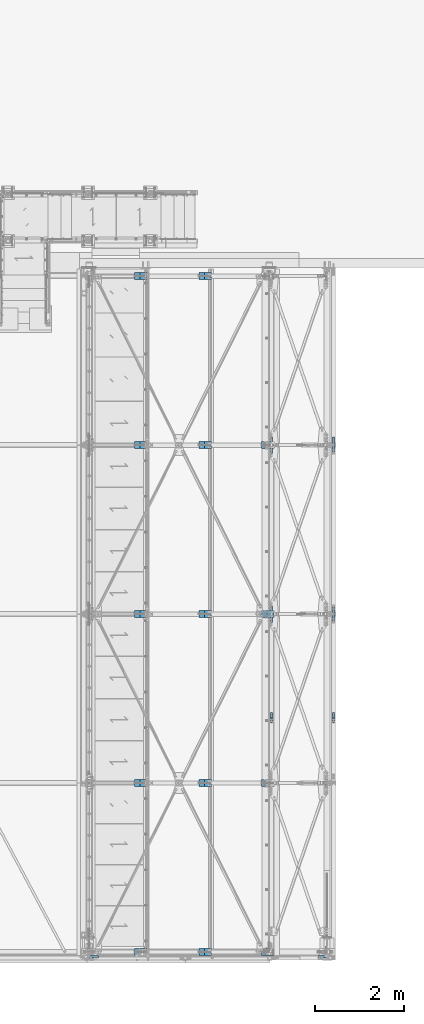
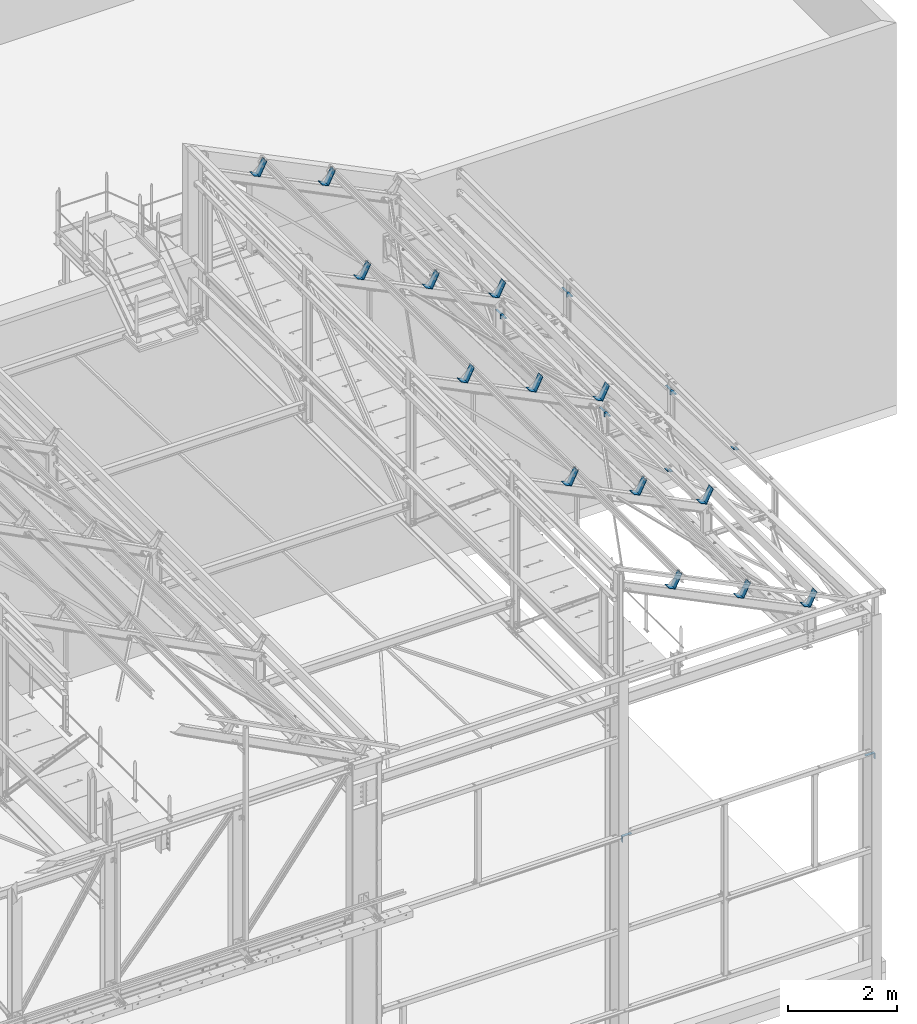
# One storey, part 361 of 362: 26 beams, 26 elements without a shape of their own.
"""IFC2X3 building model written with IfcOpenShell, lengths in millimetres."""

import ifcopenshell
import ifcopenshell.guid

model = None  # the IFC model being written
_history = None  # IfcOwnerHistory: only IFC2X3 demands one
_inside = {}  # id of a spatial element -> (the spatial element, [elements in it])
_under = {}  # id of a project, library or spatial element -> (it, [spatial elements below it])
_declared = {}  # id of a project -> (the project, [libraries it declares])
_typed = {}  # id of a type object -> (the type object, [elements of that type])
_made_of = {}  # id of a material, layer set ... -> (it, [elements and type objects made of it])


def new_model(schema):
    """Start an empty IFC model of exactly this schema.

    Asked for "IFC4X3", IfcOpenShell would pick the latest addendum, in which some entities
    have other attributes; the version numbers below select the first issue.
    IFC2X3 requires an IfcOwnerHistory on every rooted entity: one is made here for all.
    """
    global model, _history
    if schema == "IFC4X3":
        model = ifcopenshell.file(schema_version=(4, 3, 0, 0))
    else:
        model = ifcopenshell.file(schema=schema)
    _inside.clear()
    _under.clear()
    _declared.clear()
    _typed.clear()
    _made_of.clear()
    _history = None
    if model.schema == "IFC2X3":
        org = make("IfcOrganization", Name="unknown")
        user = make(
            "IfcPersonAndOrganization",
            ThePerson=make("IfcPerson", FamilyName="unknown"),
            TheOrganization=org,
        )
        app = make(
            "IfcApplication",
            ApplicationDeveloper=org,
            Version="unknown",
            ApplicationFullName="unknown",
            ApplicationIdentifier="unknown",
        )
        _history = make(
            "IfcOwnerHistory",
            OwningUser=user,
            OwningApplication=app,
            ChangeAction="ADDED",
            CreationDate=0,
        )
    return model


def make(cls, **values):
    """One entity of the class cls with the attributes given. An attribute that is None is left unset."""
    return model.create_entity(
        cls, **{name: value for name, value in values.items() if value is not None}
    )


def rooted(cls, **values):
    """An entity with a GlobalId (a new one), such as an element, a storey or a relation."""
    return make(cls, GlobalId=ifcopenshell.guid.new(), OwnerHistory=_history, **values)


def si_unit(unit_type, name, prefix=None):
    """IfcSIUnit, for example si_unit("LENGTHUNIT", "METRE", prefix="MILLI")."""
    return make("IfcSIUnit", UnitType=unit_type, Prefix=prefix, Name=name)


def assignment(units):
    """IfcUnitAssignment: the units of a project."""
    return None if units is None else make("IfcUnitAssignment", Units=units)


def point(xyz):
    """IfcCartesianPoint."""
    return None if xyz is None else make("IfcCartesianPoint", Coordinates=xyz)


def direction(xyz):
    """IfcDirection."""
    return None if xyz is None else make("IfcDirection", DirectionRatios=xyz)


def frame(location, z_axis=None, x_axis=None):
    """IfcAxis2Placement3D, a coordinate frame: its origin and axes. An axis left out is left unset."""
    return make(
        "IfcAxis2Placement3D",
        Location=point(location),
        Axis=direction(z_axis),
        RefDirection=direction(x_axis),
    )


def origin_with_axes():
    """The frame at (0, 0, 0) with the z axis (0, 0, 1) and the x axis (1, 0, 0) written out."""
    return frame((0.0, 0.0, 0.0), z_axis=(0.0, 0.0, 1.0), x_axis=(1.0, 0.0, 0.0))


def place(relative_to, where):
    """IfcLocalPlacement: puts the frame where relative to a parent placement (None: the world)."""
    return make(
        "IfcLocalPlacement", PlacementRelTo=relative_to, RelativePlacement=where
    )


def context(
    kind, dimensions, precision=None, world=None, true_north=None, identifier=None
):
    """IfcGeometricRepresentationContext, for example the 3D "Model" context."""
    return make(
        "IfcGeometricRepresentationContext",
        ContextIdentifier=identifier,
        ContextType=kind,
        CoordinateSpaceDimension=dimensions,
        Precision=precision,
        WorldCoordinateSystem=world,
        TrueNorth=true_north,
    )


def subcontext(parent, identifier, kind, view, scale=None):
    """IfcGeometricRepresentationSubContext, for example "Body" below "Model"."""
    return make(
        "IfcGeometricRepresentationSubContext",
        ContextIdentifier=identifier,
        ContextType=kind,
        ParentContext=parent,
        TargetScale=scale,
        TargetView=view,
    )


def project(units=None, contexts=None):
    """IfcProject with its units and contexts."""
    return rooted(
        "IfcProject",
        Name="project",
        RepresentationContexts=contexts,
        UnitsInContext=assignment(units),
    )


def spatial(cls, under=None, at=None, **own):
    """A site, building, storey or space (cls), placed at a placement, below another one or the project."""
    s = rooted(cls, ObjectPlacement=at, **own)
    if under is not None:
        _under.setdefault(under.id(), (under, []))[1].append(s)
    return s


def faces_of(points, faces, orient=None, outer=None):
    """IfcFace entities. A face is a list of loops; a loop is a list of indices into points, from 0.

    orient and outer hold one flag for each loop. By default every Orientation is true, the
    first loop of a face is its IfcFaceOuterBound and the others are IfcFaceBound.
    """
    made = []
    for i, loops in enumerate(faces):
        bounds = []
        for j, loop in enumerate(loops):
            is_outer = j == 0 if outer is None else outer[i][j]
            bounds.append(
                make(
                    "IfcFaceOuterBound" if is_outer else "IfcFaceBound",
                    Bound=make("IfcPolyLoop", Polygon=[points[k] for k in loop]),
                    Orientation=True if orient is None else orient[i][j],
                )
            )
        made.append(make("IfcFace", Bounds=bounds))
    return made


def faceted_brep(points, faces, orient=None, outer=None, voids=None):
    """IfcFacetedBrep: a solid bounded by flat faces; with voids (closed shells), ...WithVoids."""
    shared = [point(p) for p in points]
    hull = make("IfcClosedShell", CfsFaces=faces_of(shared, faces, orient, outer))
    if voids is None:
        return make("IfcFacetedBrep", Outer=hull)
    return make(
        "IfcFacetedBrepWithVoids",
        Outer=hull,
        Voids=[
            make(cls, CfsFaces=faces_of(shared, fs, o, b)) for cls, fs, o, b in voids
        ],
    )


def shape(context_of_items, identifier, shape_type, items):
    """IfcShapeRepresentation: the items that make up one representation, for example the "Body"."""
    return make(
        "IfcShapeRepresentation",
        ContextOfItems=context_of_items,
        RepresentationIdentifier=identifier,
        RepresentationType=shape_type,
        Items=items,
    )


def material(Name=None, Category=None):
    """IfcMaterial."""
    return make("IfcMaterial", Name=Name, Category=Category)


def made_of(thing, what):
    """Note that an element or type object is made of a material, layer set ...; save() writes the relation."""
    if what is not None:
        _made_of.setdefault(what.id(), (what, []))[1].append(thing)
    return thing


def type_object(cls, material=None, **own):
    """A type object (cls), such as IfcWallType, which elements share."""
    return made_of(rooted(cls, **own), material)


def element(
    cls,
    number,
    at=None,
    inside=None,
    cuts=None,
    type_object=None,
    material=None,
    context=None,
    identifier="Body",
    shape_type=None,
    held_by="IfcProductDefinitionShape",
    body=None,
    shapes=None,
    **own,
):
    """One element of the class cls, such as IfcWall. Its Tag is "e" and its number.

    at: its placement. inside: the storey or other place that contains it. cuts: it is an
    opening in that element (IfcRelVoidsElement). A single representation is given by context,
    identifier, shape_type and body (its items); several are given by shapes. held_by: the class
    of the entity that holds the representations. save() writes the other relations.
    """
    e = rooted(cls, Tag="e%d" % number, ObjectPlacement=at, **own)
    if body is not None:
        shapes = [shape(context, identifier, shape_type, body)]
    if shapes is not None:
        e.Representation = make(held_by, Representations=shapes)
    if inside is not None:
        _inside.setdefault(inside.id(), (inside, []))[1].append(e)
    if cuts is not None:
        rooted(
            "IfcRelVoidsElement", RelatingBuildingElement=cuts, RelatedOpeningElement=e
        )
    if type_object is not None:
        _typed.setdefault(type_object.id(), (type_object, []))[1].append(e)
    return made_of(e, material)


def aggregate(whole, parts):
    """IfcRelAggregates: a whole, such as a stair, and the parts it consists of."""
    return rooted("IfcRelAggregates", RelatingObject=whole, RelatedObjects=parts)


def save(model, path):
    """Write the relations noted so far, then the file.

    IfcRelAggregates (storeys below a building ...), IfcRelContainedInSpatialStructure (elements
    in a storey), IfcRelDefinesByType, IfcRelAssociatesMaterial and IfcRelDeclares: one each for
    every whole, place, type object, material and project.
    """
    for whole, parts in _under.values():
        aggregate(whole, parts)
    for where, things in _inside.values():
        rooted(
            "IfcRelContainedInSpatialStructure",
            RelatedElements=things,
            RelatingStructure=where,
        )
    for kind, things in _typed.values():
        rooted("IfcRelDefinesByType", RelatedObjects=things, RelatingType=kind)
    for what, things in _made_of.values():
        rooted("IfcRelAssociatesMaterial", RelatedObjects=things, RelatingMaterial=what)
    for by, libraries in _declared.values():
        rooted("IfcRelDeclares", RelatingContext=by, RelatedDefinitions=libraries)
    model.write(path)


model = new_model("IFC2X3")

# Units and contexts
model_context = context("Model", 3, precision=1e-05, world=origin_with_axes())
body_context = subcontext(model_context, "Body", "Model", "MODEL_VIEW")
ifc_project = project(units=[si_unit("LENGTHUNIT", "METRE", prefix="MILLI"), si_unit("AREAUNIT", "SQUARE_METRE"), si_unit("VOLUMEUNIT", "CUBIC_METRE"), si_unit("MASSUNIT", "GRAM", prefix="KILO"), si_unit("TIMEUNIT", "SECOND"), si_unit("PLANEANGLEUNIT", "RADIAN"), si_unit("SOLIDANGLEUNIT", "STERADIAN"), si_unit("THERMODYNAMICTEMPERATUREUNIT", "DEGREE_CELSIUS"), si_unit("LUMINOUSINTENSITYUNIT", "LUMEN")], contexts=[model_context])

# Site, building, storey
site_placement = place(None, origin_with_axes())
site = spatial("IfcSite", under=ifc_project, at=site_placement, Name="Undefined", CompositionType="ELEMENT")
building_placement = place(site_placement, origin_with_axes())
building = spatial("IfcBuilding", under=site, at=building_placement, Name="Undefined", CompositionType="ELEMENT")
storey_placement = place(building_placement, origin_with_axes())
storey = spatial("IfcBuildingStorey", under=building, at=storey_placement, Name="Undefined", CompositionType="ELEMENT", Elevation=0.0)

# Assembly, beam
assembly_1_placement = place(storey_placement, origin_with_axes())
assembly_1 = element("IfcElementAssembly", 1, at=assembly_1_placement, inside=storey, AssemblyPlace="NOTDEFINED", PredefinedType="NOTDEFINED")
ifc_material = material(Name="Undefined/S235-E24")
beam_type_1 = type_object("IfcBeamType", Name="PL60*10", PredefinedType="NOTDEFINED")
beam_1_placement = place(assembly_1_placement, frame((39620.000002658, -110.000005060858, 4800.00003731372), z_axis=(0.0, -1.0, 0.0), x_axis=(0.0, 0.0, 1.0)))
beam_1 = element("IfcBeam", 2, at=beam_1_placement, type_object=beam_type_1, material=ifc_material, Name="ATTACHE", ObjectType="PL60*10", context=body_context, shape_type="Brep", body=[
    faceted_brep([(0.0, -5.0, -30.0), (0.0, -5.0, 30.0), (0.0, 5.0, 30.0), (0.0, 5.0, -30.0), (130.0, 5.0, 30.0), (130.0, 5.0, -30.0), (140.0, -5.0, -30.0), (140.0, -5.0, 30.0), (130.0, 195.0, 30.0), (130.0, 195.0, -30.0), (140.0, 195.0, 30.0), (140.0, 195.0, -30.0)], [[[0, 1, 2, 3]], [[3, 2, 4, 5]], [[1, 0, 6, 7]], [[5, 4, 8, 9]], [[4, 2, 1, 7, 10, 8]], [[7, 6, 11, 10]], [[6, 0, 3, 5, 9, 11]], [[10, 11, 9, 8]]]),
])
aggregate(assembly_1, [beam_1])

assembly_2_placement = place(storey_placement, origin_with_axes())
assembly_2 = element("IfcElementAssembly", 3, at=assembly_2_placement, inside=storey, AssemblyPlace="NOTDEFINED", PredefinedType="NOTDEFINED")
beam_2_placement = place(assembly_2_placement, frame((34289.9999563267, -110.000005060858, 4800.00003001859), z_axis=(0.0, -1.0, 0.0), x_axis=(0.0, 0.0, 1.0)))
beam_2 = element("IfcBeam", 4, at=beam_2_placement, type_object=beam_type_1, material=ifc_material, Name="ATTACHE", ObjectType="PL60*10", context=body_context, shape_type="Brep", body=[
    faceted_brep([(0.0, -5.0, -30.0), (0.0, -5.0, 30.0), (0.0, 5.0, 30.0), (0.0, 5.0, -30.0), (140.0, 5.0, 30.0), (140.0, 5.0, -30.0), (130.0, -5.0, -30.0), (130.0, -5.0, 30.0), (140.000066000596, -194.999999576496, 30.0), (140.000066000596, -194.999999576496, -30.0), (130.000066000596, -195.000002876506, 30.0), (130.000066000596, -195.000002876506, -30.0)], [[[0, 1, 2, 3]], [[3, 2, 4, 5]], [[1, 0, 6, 7]], [[5, 4, 8, 9]], [[4, 2, 1, 7, 10, 8]], [[7, 6, 11, 10]], [[6, 0, 3, 5, 9, 11]], [[10, 11, 9, 8]]]),
])
aggregate(assembly_2, [beam_2])

assembly_3_placement = place(storey_placement, origin_with_axes())
assembly_3 = element("IfcElementAssembly", 5, at=assembly_3_placement, inside=storey, Name="PANNE SHED", AssemblyPlace="NOTDEFINED", PredefinedType="NOTDEFINED")
beam_type_2 = type_object("IfcBeamType", Name="PL10*160", PredefinedType="NOTDEFINED")
beam_3_placement = place(assembly_3_placement, frame((38429.8772433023, 7600.0000408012, 8917.78996067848), z_axis=(0.0, -1.0, 0.0), x_axis=(-0.441220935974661, 0.0, -0.89739850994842)))
beam_3 = element("IfcBeam", 6, at=beam_3_placement, type_object=beam_type_2, material=ifc_material, Name="PANNE SHED", ObjectType="PL10*160", context=body_context, shape_type="Brep", body=[
    faceted_brep([(5.07934601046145e-08, -5.00000000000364, -80.0), (5.081164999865e-08, -5.0, 80.0), (-5.08007360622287e-08, 5.0, 79.9999999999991), (-5.0815287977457e-08, 4.99999999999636, -80.0000000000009), (329.999999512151, 5.00000335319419, 79.99999999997), (329.999999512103, 5.00000335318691, -80.00000000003), (319.999998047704, -4.9999967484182, -80.0000000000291), (319.999998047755, -4.99999674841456, 79.9999999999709), (329.999977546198, -144.999983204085, 79.9999999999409), (329.999977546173, -144.999983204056, -80.0000000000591), (319.999977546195, -144.999981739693, 79.9999999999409), (319.999977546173, -144.999981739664, -80.0000000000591)], [[[0, 1, 2, 3]], [[3, 2, 4, 5]], [[1, 0, 6, 7]], [[5, 4, 8, 9]], [[4, 2, 1, 7, 10, 8]], [[7, 6, 11, 10]], [[6, 0, 3, 5, 9, 11]], [[10, 11, 9, 8]]]),
])
aggregate(assembly_3, [beam_3])

assembly_4_placement = place(storey_placement, origin_with_axes())
assembly_4 = element("IfcElementAssembly", 7, at=assembly_4_placement, inside=storey, Name="PANNE SHED", AssemblyPlace="NOTDEFINED", PredefinedType="NOTDEFINED")
beam_4_placement = place(assembly_4_placement, frame((38429.877263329, 4.08011983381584e-05, 8917.78995083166), z_axis=(0.0, -1.0, 0.0), x_axis=(-0.441220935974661, 0.0, -0.89739850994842)))
beam_4 = element("IfcBeam", 8, at=beam_4_placement, type_object=beam_type_2, material=ifc_material, Name="PANNE SHED", ObjectType="PL10*160", context=body_context, shape_type="Brep", body=[
    faceted_brep([(5.07934601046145e-08, -5.00000000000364, -80.0), (5.081164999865e-08, -5.0, 80.0), (-5.08007360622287e-08, 5.0, 79.9999999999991), (-5.0815287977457e-08, 4.99999999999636, -80.0000000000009), (329.999999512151, 5.00000335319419, 79.99999999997), (329.999999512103, 5.00000335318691, -80.00000000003), (319.999998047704, -4.9999967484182, -80.0000000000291), (319.999998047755, -4.99999674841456, 79.9999999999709), (329.999977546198, -144.999983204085, 79.9999999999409), (329.999977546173, -144.999983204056, -80.0000000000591), (319.999977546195, -144.999981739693, 79.9999999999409), (319.999977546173, -144.999981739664, -80.0000000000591)], [[[0, 1, 2, 3]], [[3, 2, 4, 5]], [[1, 0, 6, 7]], [[5, 4, 8, 9]], [[4, 2, 1, 7, 10, 8]], [[7, 6, 11, 10]], [[6, 0, 3, 5, 9, 11]], [[10, 11, 9, 8]]]),
])
aggregate(assembly_4, [beam_4])

assembly_5_placement = place(storey_placement, origin_with_axes())
assembly_5 = element("IfcElementAssembly", 9, at=assembly_5_placement, inside=storey, Name="PANNE SHED", AssemblyPlace="NOTDEFINED", PredefinedType="NOTDEFINED")
beam_5_placement = place(assembly_5_placement, frame((38429.877263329, 3800.0000408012, 8917.78995083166), z_axis=(0.0, -1.0, 0.0), x_axis=(-0.441220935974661, 0.0, -0.89739850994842)))
beam_5 = element("IfcBeam", 10, at=beam_5_placement, type_object=beam_type_2, material=ifc_material, Name="PANNE SHED", ObjectType="PL10*160", context=body_context, shape_type="Brep", body=[
    faceted_brep([(5.07934601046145e-08, -5.00000000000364, -80.0), (5.081164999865e-08, -5.0, 80.0), (-5.08007360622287e-08, 5.0, 79.9999999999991), (-5.0815287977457e-08, 4.99999999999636, -80.0000000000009), (329.999999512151, 5.00000335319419, 79.99999999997), (329.999999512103, 5.00000335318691, -80.00000000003), (319.999998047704, -4.9999967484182, -80.0000000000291), (319.999998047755, -4.99999674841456, 79.9999999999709), (329.999977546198, -144.999983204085, 79.9999999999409), (329.999977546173, -144.999983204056, -80.0000000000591), (319.999977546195, -144.999981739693, 79.9999999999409), (319.999977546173, -144.999981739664, -80.0000000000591)], [[[0, 1, 2, 3]], [[3, 2, 4, 5]], [[1, 0, 6, 7]], [[5, 4, 8, 9]], [[4, 2, 1, 7, 10, 8]], [[7, 6, 11, 10]], [[6, 0, 3, 5, 9, 11]], [[10, 11, 9, 8]]]),
])
aggregate(assembly_5, [beam_5])

assembly_6_placement = place(storey_placement, origin_with_axes())
assembly_6 = element("IfcElementAssembly", 11, at=assembly_6_placement, inside=storey, Name="PANNE SHED", AssemblyPlace="NOTDEFINED", PredefinedType="NOTDEFINED")
beam_6_placement = place(assembly_6_placement, frame((38429.8772633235, 11400.0000408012, 8917.78995083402), z_axis=(0.0, -1.0, 0.0), x_axis=(-0.441220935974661, 0.0, -0.89739850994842)))
beam_6 = element("IfcBeam", 12, at=beam_6_placement, type_object=beam_type_2, material=ifc_material, Name="PANNE SHED", ObjectType="PL10*160", context=body_context, shape_type="Brep", body=[
    faceted_brep([(5.07934601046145e-08, -5.00000000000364, -80.0), (5.081164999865e-08, -5.0, 80.0), (-5.08007360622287e-08, 5.0, 79.9999999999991), (-5.0815287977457e-08, 4.99999999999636, -80.0000000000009), (329.999999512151, 5.00000335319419, 79.99999999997), (329.999999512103, 5.00000335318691, -80.00000000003), (319.999998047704, -4.9999967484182, -80.0000000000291), (319.999998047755, -4.99999674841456, 79.9999999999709), (329.999977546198, -144.999983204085, 79.9999999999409), (329.999977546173, -144.999983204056, -80.0000000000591), (319.999977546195, -144.999981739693, 79.9999999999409), (319.999977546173, -144.999981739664, -80.0000000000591)], [[[0, 1, 2, 3]], [[3, 2, 4, 5]], [[1, 0, 6, 7]], [[5, 4, 8, 9]], [[4, 2, 1, 7, 10, 8]], [[7, 6, 11, 10]], [[6, 0, 3, 5, 9, 11]], [[10, 11, 9, 8]]]),
])
aggregate(assembly_6, [beam_6])

assembly_7_placement = place(storey_placement, origin_with_axes())
assembly_7 = element("IfcElementAssembly", 13, at=assembly_7_placement, inside=storey, Name="PANNE SHED", AssemblyPlace="NOTDEFINED", PredefinedType="NOTDEFINED")
beam_7_placement = place(assembly_7_placement, frame((35572.5934852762, 7600.0000408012, 10322.6211430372), z_axis=(0.0, -1.0, 0.0), x_axis=(-0.441220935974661, 0.0, -0.89739850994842)))
beam_7 = element("IfcBeam", 14, at=beam_7_placement, type_object=beam_type_2, material=ifc_material, Name="PANNE SHED", ObjectType="PL10*160", context=body_context, shape_type="Brep", body=[
    faceted_brep([(5.07934601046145e-08, -5.00000000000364, -80.0), (5.081164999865e-08, -5.0, 80.0), (-5.08007360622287e-08, 5.0, 79.9999999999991), (-5.0815287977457e-08, 4.99999999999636, -80.0000000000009), (329.999999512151, 5.00000335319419, 79.99999999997), (329.999999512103, 5.00000335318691, -80.00000000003), (319.999998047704, -4.9999967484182, -80.0000000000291), (319.999998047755, -4.99999674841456, 79.9999999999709), (329.999977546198, -144.999983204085, 79.9999999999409), (329.999977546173, -144.999983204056, -80.0000000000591), (319.999977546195, -144.999981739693, 79.9999999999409), (319.999977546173, -144.999981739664, -80.0000000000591)], [[[0, 1, 2, 3]], [[3, 2, 4, 5]], [[1, 0, 6, 7]], [[5, 4, 8, 9]], [[4, 2, 1, 7, 10, 8]], [[7, 6, 11, 10]], [[6, 0, 3, 5, 9, 11]], [[10, 11, 9, 8]]]),
])
aggregate(assembly_7, [beam_7])

assembly_8_placement = place(storey_placement, origin_with_axes())
assembly_8 = element("IfcElementAssembly", 15, at=assembly_8_placement, inside=storey, Name="PANNE SHED", AssemblyPlace="NOTDEFINED", PredefinedType="NOTDEFINED")
beam_8_placement = place(assembly_8_placement, frame((35572.5935053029, 4.08011983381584e-05, 10322.6211331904), z_axis=(0.0, -1.0, 0.0), x_axis=(-0.441220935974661, 0.0, -0.89739850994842)))
beam_8 = element("IfcBeam", 16, at=beam_8_placement, type_object=beam_type_2, material=ifc_material, Name="PANNE SHED", ObjectType="PL10*160", context=body_context, shape_type="Brep", body=[
    faceted_brep([(5.07934601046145e-08, -5.00000000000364, -80.0), (5.081164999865e-08, -5.0, 80.0), (-5.08007360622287e-08, 5.0, 79.9999999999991), (-5.0815287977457e-08, 4.99999999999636, -80.0000000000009), (329.999999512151, 5.00000335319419, 79.99999999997), (329.999999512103, 5.00000335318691, -80.00000000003), (319.999998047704, -4.9999967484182, -80.0000000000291), (319.999998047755, -4.99999674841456, 79.9999999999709), (329.999977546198, -144.999983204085, 79.9999999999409), (329.999977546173, -144.999983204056, -80.0000000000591), (319.999977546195, -144.999981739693, 79.9999999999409), (319.999977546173, -144.999981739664, -80.0000000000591)], [[[0, 1, 2, 3]], [[3, 2, 4, 5]], [[1, 0, 6, 7]], [[5, 4, 8, 9]], [[4, 2, 1, 7, 10, 8]], [[7, 6, 11, 10]], [[6, 0, 3, 5, 9, 11]], [[10, 11, 9, 8]]]),
])
aggregate(assembly_8, [beam_8])

assembly_9_placement = place(storey_placement, origin_with_axes())
assembly_9 = element("IfcElementAssembly", 17, at=assembly_9_placement, inside=storey, Name="PANNE SHED", AssemblyPlace="NOTDEFINED", PredefinedType="NOTDEFINED")
beam_9_placement = place(assembly_9_placement, frame((35572.5935053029, 3800.0000408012, 10322.6211331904), z_axis=(0.0, -1.0, 0.0), x_axis=(-0.441220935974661, 0.0, -0.89739850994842)))
beam_9 = element("IfcBeam", 18, at=beam_9_placement, type_object=beam_type_2, material=ifc_material, Name="PANNE SHED", ObjectType="PL10*160", context=body_context, shape_type="Brep", body=[
    faceted_brep([(5.07934601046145e-08, -5.00000000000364, -80.0), (5.081164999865e-08, -5.0, 80.0), (-5.08007360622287e-08, 5.0, 79.9999999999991), (-5.0815287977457e-08, 4.99999999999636, -80.0000000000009), (329.999999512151, 5.00000335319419, 79.99999999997), (329.999999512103, 5.00000335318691, -80.00000000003), (319.999998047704, -4.9999967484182, -80.0000000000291), (319.999998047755, -4.99999674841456, 79.9999999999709), (329.999977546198, -144.999983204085, 79.9999999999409), (329.999977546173, -144.999983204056, -80.0000000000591), (319.999977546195, -144.999981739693, 79.9999999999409), (319.999977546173, -144.999981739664, -80.0000000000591)], [[[0, 1, 2, 3]], [[3, 2, 4, 5]], [[1, 0, 6, 7]], [[5, 4, 8, 9]], [[4, 2, 1, 7, 10, 8]], [[7, 6, 11, 10]], [[6, 0, 3, 5, 9, 11]], [[10, 11, 9, 8]]]),
])
aggregate(assembly_9, [beam_9])

assembly_10_placement = place(storey_placement, origin_with_axes())
assembly_10 = element("IfcElementAssembly", 19, at=assembly_10_placement, inside=storey, Name="PANNE SHED", AssemblyPlace="NOTDEFINED", PredefinedType="NOTDEFINED")
beam_10_placement = place(assembly_10_placement, frame((35572.5935053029, 15200.0000408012, 10322.6211331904), z_axis=(0.0, -1.0, 0.0), x_axis=(-0.441220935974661, 0.0, -0.89739850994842)))
beam_10 = element("IfcBeam", 20, at=beam_10_placement, type_object=beam_type_2, material=ifc_material, Name="PANNE SHED", ObjectType="PL10*160", context=body_context, shape_type="Brep", body=[
    faceted_brep([(5.07934601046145e-08, -5.00000000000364, -80.0), (5.081164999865e-08, -5.0, 80.0), (-5.08007360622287e-08, 5.0, 79.9999999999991), (-5.0815287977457e-08, 4.99999999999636, -80.0000000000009), (329.999999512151, 5.00000335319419, 79.99999999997), (329.999999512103, 5.00000335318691, -80.00000000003), (319.999998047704, -4.9999967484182, -80.0000000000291), (319.999998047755, -4.99999674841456, 79.9999999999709), (329.999977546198, -144.999983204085, 79.9999999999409), (329.999977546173, -144.999983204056, -80.0000000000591), (319.999977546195, -144.999981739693, 79.9999999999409), (319.999977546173, -144.999981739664, -80.0000000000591)], [[[0, 1, 2, 3]], [[3, 2, 4, 5]], [[1, 0, 6, 7]], [[5, 4, 8, 9]], [[4, 2, 1, 7, 10, 8]], [[7, 6, 11, 10]], [[6, 0, 3, 5, 9, 11]], [[10, 11, 9, 8]]]),
])
aggregate(assembly_10, [beam_10])

assembly_11_placement = place(storey_placement, origin_with_axes())
assembly_11 = element("IfcElementAssembly", 21, at=assembly_11_placement, inside=storey, Name="PANNE SHED", AssemblyPlace="NOTDEFINED", PredefinedType="NOTDEFINED")
beam_11_placement = place(assembly_11_placement, frame((35572.5935052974, 11400.0000408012, 10322.6211331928), z_axis=(0.0, -1.0, 0.0), x_axis=(-0.441220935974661, 0.0, -0.89739850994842)))
beam_11 = element("IfcBeam", 22, at=beam_11_placement, type_object=beam_type_2, material=ifc_material, Name="PANNE SHED", ObjectType="PL10*160", context=body_context, shape_type="Brep", body=[
    faceted_brep([(5.07934601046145e-08, -5.00000000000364, -80.0), (5.081164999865e-08, -5.0, 80.0), (-5.08007360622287e-08, 5.0, 79.9999999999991), (-5.0815287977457e-08, 4.99999999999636, -80.0000000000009), (329.999999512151, 5.00000335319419, 79.99999999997), (329.999999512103, 5.00000335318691, -80.00000000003), (319.999998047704, -4.9999967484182, -80.0000000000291), (319.999998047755, -4.99999674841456, 79.9999999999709), (329.999977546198, -144.999983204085, 79.9999999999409), (329.999977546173, -144.999983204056, -80.0000000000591), (319.999977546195, -144.999981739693, 79.9999999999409), (319.999977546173, -144.999981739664, -80.0000000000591)], [[[0, 1, 2, 3]], [[3, 2, 4, 5]], [[1, 0, 6, 7]], [[5, 4, 8, 9]], [[4, 2, 1, 7, 10, 8]], [[7, 6, 11, 10]], [[6, 0, 3, 5, 9, 11]], [[10, 11, 9, 8]]]),
])
aggregate(assembly_11, [beam_11])

assembly_12_placement = place(storey_placement, origin_with_axes())
assembly_12 = element("IfcElementAssembly", 23, at=assembly_12_placement, inside=storey, Name="PANNE SHED", AssemblyPlace="NOTDEFINED", PredefinedType="NOTDEFINED")
beam_12_placement = place(assembly_12_placement, frame((37021.4268190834, 7600.0000408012, 9610.27808657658), z_axis=(0.0, -1.0, 0.0), x_axis=(-0.441220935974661, 0.0, -0.89739850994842)))
beam_12 = element("IfcBeam", 24, at=beam_12_placement, type_object=beam_type_2, material=ifc_material, Name="PANNE SHED", ObjectType="PL10*160", context=body_context, shape_type="Brep", body=[
    faceted_brep([(5.07934601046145e-08, -5.00000000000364, -80.0), (5.081164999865e-08, -5.0, 80.0), (-5.08007360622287e-08, 5.0, 79.9999999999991), (-5.0815287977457e-08, 4.99999999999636, -80.0000000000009), (329.999999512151, 5.00000335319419, 79.99999999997), (329.999999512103, 5.00000335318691, -80.00000000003), (319.999998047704, -4.9999967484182, -80.0000000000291), (319.999998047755, -4.99999674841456, 79.9999999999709), (329.999977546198, -144.999983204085, 79.9999999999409), (329.999977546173, -144.999983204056, -80.0000000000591), (319.999977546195, -144.999981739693, 79.9999999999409), (319.999977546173, -144.999981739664, -80.0000000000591)], [[[0, 1, 2, 3]], [[3, 2, 4, 5]], [[1, 0, 6, 7]], [[5, 4, 8, 9]], [[4, 2, 1, 7, 10, 8]], [[7, 6, 11, 10]], [[6, 0, 3, 5, 9, 11]], [[10, 11, 9, 8]]]),
])
aggregate(assembly_12, [beam_12])

assembly_13_placement = place(storey_placement, origin_with_axes())
assembly_13 = element("IfcElementAssembly", 25, at=assembly_13_placement, inside=storey, Name="PANNE SHED", AssemblyPlace="NOTDEFINED", PredefinedType="NOTDEFINED")
beam_13_placement = place(assembly_13_placement, frame((37021.4268391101, 4.08011983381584e-05, 9610.27807672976), z_axis=(0.0, -1.0, 0.0), x_axis=(-0.441220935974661, 0.0, -0.89739850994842)))
beam_13 = element("IfcBeam", 26, at=beam_13_placement, type_object=beam_type_2, material=ifc_material, Name="PANNE SHED", ObjectType="PL10*160", context=body_context, shape_type="Brep", body=[
    faceted_brep([(5.07934601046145e-08, -5.00000000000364, -80.0), (5.081164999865e-08, -5.0, 80.0), (-5.08007360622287e-08, 5.0, 79.9999999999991), (-5.0815287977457e-08, 4.99999999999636, -80.0000000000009), (329.999999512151, 5.00000335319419, 79.99999999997), (329.999999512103, 5.00000335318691, -80.00000000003), (319.999998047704, -4.9999967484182, -80.0000000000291), (319.999998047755, -4.99999674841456, 79.9999999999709), (329.999977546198, -144.999983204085, 79.9999999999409), (329.999977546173, -144.999983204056, -80.0000000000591), (319.999977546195, -144.999981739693, 79.9999999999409), (319.999977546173, -144.999981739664, -80.0000000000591)], [[[0, 1, 2, 3]], [[3, 2, 4, 5]], [[1, 0, 6, 7]], [[5, 4, 8, 9]], [[4, 2, 1, 7, 10, 8]], [[7, 6, 11, 10]], [[6, 0, 3, 5, 9, 11]], [[10, 11, 9, 8]]]),
])
aggregate(assembly_13, [beam_13])

assembly_14_placement = place(storey_placement, origin_with_axes())
assembly_14 = element("IfcElementAssembly", 27, at=assembly_14_placement, inside=storey, Name="PANNE SHED", AssemblyPlace="NOTDEFINED", PredefinedType="NOTDEFINED")
beam_14_placement = place(assembly_14_placement, frame((37021.4268391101, 3800.0000408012, 9610.27807672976), z_axis=(0.0, -1.0, 0.0), x_axis=(-0.441220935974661, 0.0, -0.89739850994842)))
beam_14 = element("IfcBeam", 28, at=beam_14_placement, type_object=beam_type_2, material=ifc_material, Name="PANNE SHED", ObjectType="PL10*160", context=body_context, shape_type="Brep", body=[
    faceted_brep([(5.07934601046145e-08, -5.00000000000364, -80.0), (5.081164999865e-08, -5.0, 80.0), (-5.08007360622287e-08, 5.0, 79.9999999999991), (-5.0815287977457e-08, 4.99999999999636, -80.0000000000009), (329.999999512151, 5.00000335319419, 79.99999999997), (329.999999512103, 5.00000335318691, -80.00000000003), (319.999998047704, -4.9999967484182, -80.0000000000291), (319.999998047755, -4.99999674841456, 79.9999999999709), (329.999977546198, -144.999983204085, 79.9999999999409), (329.999977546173, -144.999983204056, -80.0000000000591), (319.999977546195, -144.999981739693, 79.9999999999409), (319.999977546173, -144.999981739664, -80.0000000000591)], [[[0, 1, 2, 3]], [[3, 2, 4, 5]], [[1, 0, 6, 7]], [[5, 4, 8, 9]], [[4, 2, 1, 7, 10, 8]], [[7, 6, 11, 10]], [[6, 0, 3, 5, 9, 11]], [[10, 11, 9, 8]]]),
])
aggregate(assembly_14, [beam_14])

assembly_15_placement = place(storey_placement, origin_with_axes())
assembly_15 = element("IfcElementAssembly", 29, at=assembly_15_placement, inside=storey, Name="PANNE SHED", AssemblyPlace="NOTDEFINED", PredefinedType="NOTDEFINED")
beam_15_placement = place(assembly_15_placement, frame((37021.4268391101, 15200.0000408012, 9610.27807672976), z_axis=(0.0, -1.0, 0.0), x_axis=(-0.441220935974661, 0.0, -0.89739850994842)))
beam_15 = element("IfcBeam", 30, at=beam_15_placement, type_object=beam_type_2, material=ifc_material, Name="PANNE SHED", ObjectType="PL10*160", context=body_context, shape_type="Brep", body=[
    faceted_brep([(5.07934601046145e-08, -5.00000000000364, -80.0), (5.081164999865e-08, -5.0, 80.0), (-5.08007360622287e-08, 5.0, 79.9999999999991), (-5.0815287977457e-08, 4.99999999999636, -80.0000000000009), (329.999999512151, 5.00000335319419, 79.99999999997), (329.999999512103, 5.00000335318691, -80.00000000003), (319.999998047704, -4.9999967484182, -80.0000000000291), (319.999998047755, -4.99999674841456, 79.9999999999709), (329.999977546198, -144.999983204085, 79.9999999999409), (329.999977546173, -144.999983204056, -80.0000000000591), (319.999977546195, -144.999981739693, 79.9999999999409), (319.999977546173, -144.999981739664, -80.0000000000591)], [[[0, 1, 2, 3]], [[3, 2, 4, 5]], [[1, 0, 6, 7]], [[5, 4, 8, 9]], [[4, 2, 1, 7, 10, 8]], [[7, 6, 11, 10]], [[6, 0, 3, 5, 9, 11]], [[10, 11, 9, 8]]]),
])
aggregate(assembly_15, [beam_15])

assembly_16_placement = place(storey_placement, origin_with_axes())
assembly_16 = element("IfcElementAssembly", 31, at=assembly_16_placement, inside=storey, Name="PANNE SHED", AssemblyPlace="NOTDEFINED", PredefinedType="NOTDEFINED")
beam_16_placement = place(assembly_16_placement, frame((37021.4268391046, 11400.0000408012, 9610.27807673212), z_axis=(0.0, -1.0, 0.0), x_axis=(-0.441220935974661, 0.0, -0.89739850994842)))
beam_16 = element("IfcBeam", 32, at=beam_16_placement, type_object=beam_type_2, material=ifc_material, Name="PANNE SHED", ObjectType="PL10*160", context=body_context, shape_type="Brep", body=[
    faceted_brep([(5.07934601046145e-08, -5.00000000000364, -80.0), (5.081164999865e-08, -5.0, 80.0), (-5.08007360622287e-08, 5.0, 79.9999999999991), (-5.0815287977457e-08, 4.99999999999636, -80.0000000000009), (329.999999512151, 5.00000335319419, 79.99999999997), (329.999999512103, 5.00000335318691, -80.00000000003), (319.999998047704, -4.9999967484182, -80.0000000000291), (319.999998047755, -4.99999674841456, 79.9999999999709), (329.999977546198, -144.999983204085, 79.9999999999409), (329.999977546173, -144.999983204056, -80.0000000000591), (319.999977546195, -144.999981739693, 79.9999999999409), (319.999977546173, -144.999981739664, -80.0000000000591)], [[[0, 1, 2, 3]], [[3, 2, 4, 5]], [[1, 0, 6, 7]], [[5, 4, 8, 9]], [[4, 2, 1, 7, 10, 8]], [[7, 6, 11, 10]], [[6, 0, 3, 5, 9, 11]], [[10, 11, 9, 8]]]),
])
aggregate(assembly_16, [beam_16])

assembly_17_placement = place(storey_placement, origin_with_axes())
assembly_17 = element("IfcElementAssembly", 33, at=assembly_17_placement, inside=storey, AssemblyPlace="NOTDEFINED", PredefinedType="NOTDEFINED")
beam_type_3 = type_object("IfcBeamType", Name="PL6*50", PredefinedType="NOTDEFINED")
beam_17_placement = place(assembly_17_placement, frame((39775.0, 5155.38587692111, 8447.0), z_axis=(1.0, 0.0, 0.0), x_axis=(0.0, 1.0, 0.0)))
beam_17 = element("IfcBeam", 34, at=beam_17_placement, type_object=beam_type_3, material=ifc_material, Name="ATTACHE", ObjectType="PL6*50", context=body_context, shape_type="Brep", body=[
    faceted_brep([(-5.16229192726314e-09, -3.0, -25.0), (-5.16229192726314e-09, -3.0, 25.0), (5.16229192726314e-09, 3.0, 25.0), (5.16229192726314e-09, 3.0, -25.0), (109.999999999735, 2.99999999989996, 25.0), (109.999999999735, 2.99999999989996, -25.0), (103.99999999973, -3.00000000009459, -25.0), (103.99999999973, -3.00000000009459, 25.0), (109.999999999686, -51.1856165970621, 25.0), (109.999999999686, -51.1856165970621, -25.0), (103.999999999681, -57.0000000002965, -25.0), (103.999999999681, -57.0000000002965, 25.0), (234.124323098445, -55.086831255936, 25.0), (234.124323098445, -55.086831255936, -25.0), (233.935836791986, -61.0838699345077, 25.0), (233.935836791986, -61.0838699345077, -25.0)], [[[0, 1, 2, 3]], [[3, 2, 4, 5]], [[1, 0, 6, 7]], [[5, 4, 8, 9]], [[7, 6, 10, 11]], [[9, 8, 12, 13]], [[8, 4, 2, 1, 7, 11, 14, 12]], [[11, 10, 15, 14]], [[10, 6, 0, 3, 5, 9, 13, 15]], [[14, 15, 13, 12]]]),
])
aggregate(assembly_17, [beam_17])

assembly_18_placement = place(storey_placement, origin_with_axes())
assembly_18 = element("IfcElementAssembly", 35, at=assembly_18_placement, inside=storey, AssemblyPlace="NOTDEFINED", PredefinedType="NOTDEFINED")
beam_18_placement = place(assembly_18_placement, frame((39775.0, 11406.5000000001, 8082.99910469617), z_axis=(1.0, 0.0, 0.0), x_axis=(0.0, 0.0, 1.0)))
beam_18 = element("IfcBeam", 36, at=beam_18_placement, type_object=beam_type_3, material=ifc_material, Name="ATTACHE", ObjectType="PL6*50", context=body_context, shape_type="Brep", body=[
    faceted_brep([(-5.16229192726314e-09, -3.0, -25.0), (-5.16229192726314e-09, -3.0, 25.0), (5.16229192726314e-09, 3.0, 25.0), (5.16229192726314e-09, 3.0, -25.0), (109.889991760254, 2.99999999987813, 25.0), (109.889991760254, 2.99999999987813, -25.0), (103.698449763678, -3.0000000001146, -25.0), (103.698449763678, -3.0000000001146, 25.0), (104.18733215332, -178.440765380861, 25.0), (104.18733215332, -178.440765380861, -25.0), (98.1902934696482, -178.252279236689, 25.0), (98.1902934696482, -178.252279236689, -25.0)], [[[0, 1, 2, 3]], [[3, 2, 4, 5]], [[1, 0, 6, 7]], [[5, 4, 8, 9]], [[4, 2, 1, 7, 10, 8]], [[7, 6, 11, 10]], [[6, 0, 3, 5, 9, 11]], [[10, 11, 9, 8]]]),
])
aggregate(assembly_18, [beam_18])

assembly_19_placement = place(storey_placement, origin_with_axes())
assembly_19 = element("IfcElementAssembly", 37, at=assembly_19_placement, inside=storey, AssemblyPlace="NOTDEFINED", PredefinedType="NOTDEFINED")
beam_19_placement = place(assembly_19_placement, frame((39775.0000000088, 11214.9649832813, 8195.81325670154), z_axis=(1.0, 0.0, 0.0), x_axis=(0.0, 0.99950644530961, -0.0314144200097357)))
beam_19 = element("IfcBeam", 38, at=beam_19_placement, type_object=beam_type_3, material=ifc_material, Name="ATTACHE", ObjectType="PL6*50", context=body_context, shape_type="Brep", body=[
    faceted_brep([(-5.16229192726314e-09, -3.0, -25.0), (-5.16229192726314e-09, -3.0, 25.0), (5.16229192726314e-09, 3.0, 25.0), (5.16229192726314e-09, 3.0, -25.0), (181.530360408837, 2.99999968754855, 25.0), (181.530360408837, 2.99999968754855, -25.0), (175.715977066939, -3.00000030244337, -25.0), (175.715977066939, -3.00000030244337, 25.0), (184.989399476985, -107.055656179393, 25.0), (184.989399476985, -107.055656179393, -25.0), (178.992360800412, -107.244142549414, 25.0), (178.992360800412, -107.244142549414, -25.0)], [[[0, 1, 2, 3]], [[3, 2, 4, 5]], [[1, 0, 6, 7]], [[5, 4, 8, 9]], [[4, 2, 1, 7, 10, 8]], [[7, 6, 11, 10]], [[6, 0, 3, 5, 9, 11]], [[10, 11, 9, 8]]]),
])
aggregate(assembly_19, [beam_19])

assembly_20_placement = place(storey_placement, origin_with_axes())
assembly_20 = element("IfcElementAssembly", 39, at=assembly_20_placement, inside=storey, AssemblyPlace="NOTDEFINED", PredefinedType="NOTDEFINED")
beam_20_placement = place(assembly_20_placement, frame((39775.0, 7606.50000000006, 8202.43274464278), z_axis=(1.0, 0.0, 0.0), x_axis=(0.0, 0.0, 1.0)))
beam_20 = element("IfcBeam", 40, at=beam_20_placement, type_object=beam_type_3, material=ifc_material, Name="ATTACHE", ObjectType="PL6*50", context=body_context, shape_type="Brep", body=[
    faceted_brep([(-5.16229192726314e-09, -3.0, -25.0), (-5.16229192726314e-09, -3.0, 25.0), (5.16229192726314e-09, 3.0, 25.0), (5.16229192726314e-09, 3.0, -25.0), (109.889991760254, 2.99999999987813, 25.0), (109.889991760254, 2.99999999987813, -25.0), (103.698449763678, -3.0000000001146, -25.0), (103.698449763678, -3.0000000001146, 25.0), (104.18733215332, -178.440765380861, 25.0), (104.18733215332, -178.440765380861, -25.0), (98.1902934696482, -178.252279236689, 25.0), (98.1902934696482, -178.252279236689, -25.0)], [[[0, 1, 2, 3]], [[3, 2, 4, 5]], [[1, 0, 6, 7]], [[5, 4, 8, 9]], [[4, 2, 1, 7, 10, 8]], [[7, 6, 11, 10]], [[6, 0, 3, 5, 9, 11]], [[10, 11, 9, 8]]]),
])
aggregate(assembly_20, [beam_20])

assembly_21_placement = place(storey_placement, origin_with_axes())
assembly_21 = element("IfcElementAssembly", 41, at=assembly_21_placement, inside=storey, AssemblyPlace="NOTDEFINED", PredefinedType="NOTDEFINED")
beam_21_placement = place(assembly_21_placement, frame((39775.0000000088, 7414.96498328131, 8315.24689664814), z_axis=(1.0, 0.0, 0.0), x_axis=(0.0, 0.99950644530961, -0.0314144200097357)))
beam_21 = element("IfcBeam", 42, at=beam_21_placement, type_object=beam_type_3, material=ifc_material, Name="ATTACHE", ObjectType="PL6*50", context=body_context, shape_type="Brep", body=[
    faceted_brep([(-5.16229192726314e-09, -3.0, -25.0), (-5.16229192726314e-09, -3.0, 25.0), (5.16229192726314e-09, 3.0, 25.0), (5.16229192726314e-09, 3.0, -25.0), (181.530360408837, 2.99999968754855, 25.0), (181.530360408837, 2.99999968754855, -25.0), (175.715977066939, -3.00000030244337, -25.0), (175.715977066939, -3.00000030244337, 25.0), (184.989399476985, -107.055656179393, 25.0), (184.989399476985, -107.055656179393, -25.0), (178.992360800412, -107.244142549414, 25.0), (178.992360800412, -107.244142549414, -25.0)], [[[0, 1, 2, 3]], [[3, 2, 4, 5]], [[1, 0, 6, 7]], [[5, 4, 8, 9]], [[4, 2, 1, 7, 10, 8]], [[7, 6, 11, 10]], [[6, 0, 3, 5, 9, 11]], [[10, 11, 9, 8]]]),
])
aggregate(assembly_21, [beam_21])

assembly_22_placement = place(storey_placement, origin_with_axes())
assembly_22 = element("IfcElementAssembly", 43, at=assembly_22_placement, inside=storey, AssemblyPlace="NOTDEFINED", PredefinedType="NOTDEFINED")
beam_22_placement = place(assembly_22_placement, frame((38380.0, 5155.38587692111, 8447.0), z_axis=(1.0, 0.0, 0.0), x_axis=(0.0, 1.0, 0.0)))
beam_22 = element("IfcBeam", 44, at=beam_22_placement, type_object=beam_type_3, material=ifc_material, Name="ATTACHE", ObjectType="PL6*50", context=body_context, shape_type="Brep", body=[
    faceted_brep([(-5.16229192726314e-09, -3.0, -25.0), (-5.16229192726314e-09, -3.0, 25.0), (5.16229192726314e-09, 3.0, 25.0), (5.16229192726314e-09, 3.0, -25.0), (109.999999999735, 2.99999999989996, 25.0), (109.999999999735, 2.99999999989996, -25.0), (103.99999999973, -3.00000000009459, -25.0), (103.99999999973, -3.00000000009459, 25.0), (109.999999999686, -51.1856165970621, 25.0), (109.999999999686, -51.1856165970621, -25.0), (103.999999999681, -57.0000000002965, -25.0), (103.999999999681, -57.0000000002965, 25.0), (234.124323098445, -55.086831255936, 25.0), (234.124323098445, -55.086831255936, -25.0), (233.935836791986, -61.0838699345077, 25.0), (233.935836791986, -61.0838699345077, -25.0)], [[[0, 1, 2, 3]], [[3, 2, 4, 5]], [[1, 0, 6, 7]], [[5, 4, 8, 9]], [[7, 6, 10, 11]], [[9, 8, 12, 13]], [[8, 4, 2, 1, 7, 11, 14, 12]], [[11, 10, 15, 14]], [[10, 6, 0, 3, 5, 9, 13, 15]], [[14, 15, 13, 12]]]),
])
aggregate(assembly_22, [beam_22])

assembly_23_placement = place(storey_placement, origin_with_axes())
assembly_23 = element("IfcElementAssembly", 45, at=assembly_23_placement, inside=storey, AssemblyPlace="NOTDEFINED", PredefinedType="NOTDEFINED")
beam_23_placement = place(assembly_23_placement, frame((38380.0, 11406.5000000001, 8082.99910469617), z_axis=(1.0, 0.0, 0.0), x_axis=(0.0, 0.0, 1.0)))
beam_23 = element("IfcBeam", 46, at=beam_23_placement, type_object=beam_type_3, material=ifc_material, Name="ATTACHE", ObjectType="PL6*50", context=body_context, shape_type="Brep", body=[
    faceted_brep([(-5.16229192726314e-09, -3.0, -25.0), (-5.16229192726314e-09, -3.0, 25.0), (5.16229192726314e-09, 3.0, 25.0), (5.16229192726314e-09, 3.0, -25.0), (109.889991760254, 2.99999999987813, 25.0), (109.889991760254, 2.99999999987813, -25.0), (103.698449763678, -3.0000000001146, -25.0), (103.698449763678, -3.0000000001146, 25.0), (104.18733215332, -178.440765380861, 25.0), (104.18733215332, -178.440765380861, -25.0), (98.1902934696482, -178.252279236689, 25.0), (98.1902934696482, -178.252279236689, -25.0)], [[[0, 1, 2, 3]], [[3, 2, 4, 5]], [[1, 0, 6, 7]], [[5, 4, 8, 9]], [[4, 2, 1, 7, 10, 8]], [[7, 6, 11, 10]], [[6, 0, 3, 5, 9, 11]], [[10, 11, 9, 8]]]),
])
aggregate(assembly_23, [beam_23])

assembly_24_placement = place(storey_placement, origin_with_axes())
assembly_24 = element("IfcElementAssembly", 47, at=assembly_24_placement, inside=storey, AssemblyPlace="NOTDEFINED", PredefinedType="NOTDEFINED")
beam_24_placement = place(assembly_24_placement, frame((38380.0000000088, 11214.9649832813, 8195.81325670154), z_axis=(1.0, 0.0, 0.0), x_axis=(0.0, 0.99950644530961, -0.0314144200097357)))
beam_24 = element("IfcBeam", 48, at=beam_24_placement, type_object=beam_type_3, material=ifc_material, Name="ATTACHE", ObjectType="PL6*50", context=body_context, shape_type="Brep", body=[
    faceted_brep([(-5.16229192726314e-09, -3.0, -25.0), (-5.16229192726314e-09, -3.0, 25.0), (5.16229192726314e-09, 3.0, 25.0), (5.16229192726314e-09, 3.0, -25.0), (181.530360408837, 2.99999968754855, 25.0), (181.530360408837, 2.99999968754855, -25.0), (175.715977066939, -3.00000030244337, -25.0), (175.715977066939, -3.00000030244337, 25.0), (184.989399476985, -107.055656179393, 25.0), (184.989399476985, -107.055656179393, -25.0), (178.992360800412, -107.244142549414, 25.0), (178.992360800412, -107.244142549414, -25.0)], [[[0, 1, 2, 3]], [[3, 2, 4, 5]], [[1, 0, 6, 7]], [[5, 4, 8, 9]], [[4, 2, 1, 7, 10, 8]], [[7, 6, 11, 10]], [[6, 0, 3, 5, 9, 11]], [[10, 11, 9, 8]]]),
])
aggregate(assembly_24, [beam_24])

assembly_25_placement = place(storey_placement, origin_with_axes())
assembly_25 = element("IfcElementAssembly", 49, at=assembly_25_placement, inside=storey, AssemblyPlace="NOTDEFINED", PredefinedType="NOTDEFINED")
beam_25_placement = place(assembly_25_placement, frame((38380.0, 7606.50000000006, 8202.43274464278), z_axis=(1.0, 0.0, 0.0), x_axis=(0.0, 0.0, 1.0)))
beam_25 = element("IfcBeam", 50, at=beam_25_placement, type_object=beam_type_3, material=ifc_material, Name="ATTACHE", ObjectType="PL6*50", context=body_context, shape_type="Brep", body=[
    faceted_brep([(-5.16229192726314e-09, -3.0, -25.0), (-5.16229192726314e-09, -3.0, 25.0), (5.16229192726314e-09, 3.0, 25.0), (5.16229192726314e-09, 3.0, -25.0), (109.889991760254, 2.99999999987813, 25.0), (109.889991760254, 2.99999999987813, -25.0), (103.698449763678, -3.0000000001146, -25.0), (103.698449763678, -3.0000000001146, 25.0), (104.18733215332, -178.440765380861, 25.0), (104.18733215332, -178.440765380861, -25.0), (98.1902934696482, -178.252279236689, 25.0), (98.1902934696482, -178.252279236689, -25.0)], [[[0, 1, 2, 3]], [[3, 2, 4, 5]], [[1, 0, 6, 7]], [[5, 4, 8, 9]], [[4, 2, 1, 7, 10, 8]], [[7, 6, 11, 10]], [[6, 0, 3, 5, 9, 11]], [[10, 11, 9, 8]]]),
])
aggregate(assembly_25, [beam_25])

assembly_26_placement = place(storey_placement, origin_with_axes())
assembly_26 = element("IfcElementAssembly", 51, at=assembly_26_placement, inside=storey, AssemblyPlace="NOTDEFINED", PredefinedType="NOTDEFINED")
beam_26_placement = place(assembly_26_placement, frame((38380.0000000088, 7414.96498328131, 8315.24689664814), z_axis=(1.0, 0.0, 0.0), x_axis=(0.0, 0.99950644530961, -0.0314144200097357)))
beam_26 = element("IfcBeam", 52, at=beam_26_placement, type_object=beam_type_3, material=ifc_material, Name="ATTACHE", ObjectType="PL6*50", context=body_context, shape_type="Brep", body=[
    faceted_brep([(-5.16229192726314e-09, -3.0, -25.0), (-5.16229192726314e-09, -3.0, 25.0), (5.16229192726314e-09, 3.0, 25.0), (5.16229192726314e-09, 3.0, -25.0), (181.530360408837, 2.99999968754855, 25.0), (181.530360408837, 2.99999968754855, -25.0), (175.715977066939, -3.00000030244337, -25.0), (175.715977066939, -3.00000030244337, 25.0), (184.989399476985, -107.055656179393, 25.0), (184.989399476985, -107.055656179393, -25.0), (178.992360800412, -107.244142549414, 25.0), (178.992360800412, -107.244142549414, -25.0)], [[[0, 1, 2, 3]], [[3, 2, 4, 5]], [[1, 0, 6, 7]], [[5, 4, 8, 9]], [[4, 2, 1, 7, 10, 8]], [[7, 6, 11, 10]], [[6, 0, 3, 5, 9, 11]], [[10, 11, 9, 8]]]),
])
aggregate(assembly_26, [beam_26])

save(model, "model.ifc")
